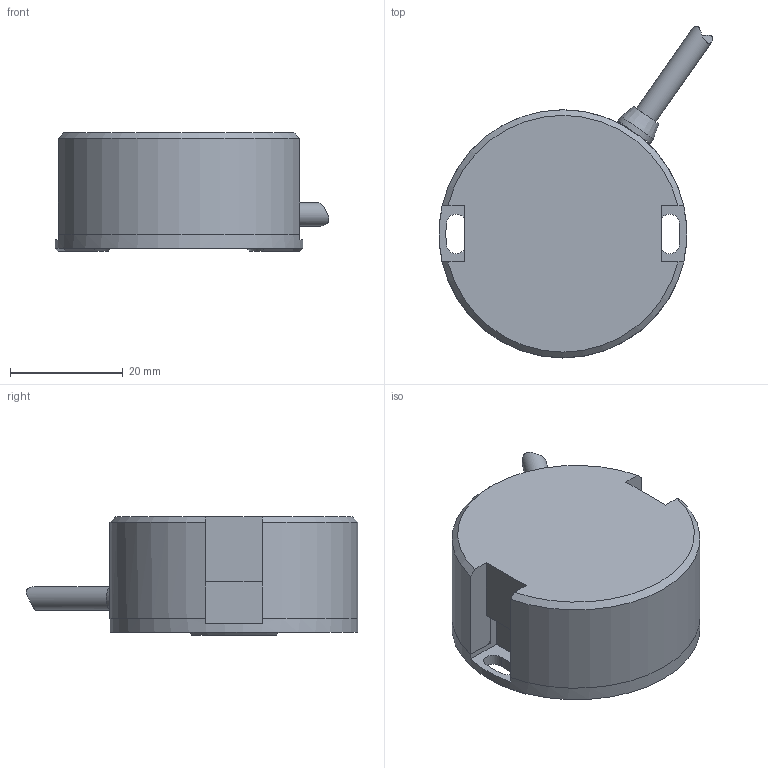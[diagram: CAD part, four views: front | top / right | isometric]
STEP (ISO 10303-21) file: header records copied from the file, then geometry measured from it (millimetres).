
FILE_DESCRIPTION(('STEP AP242'),'1');
FILE_NAME('.stp','2022-07-26T05:57:36',(' '),(' '),'Spatial InterOp 3D',' ',' ');
FILE_SCHEMA(('AP242_MANAGED_MODEL_BASED_3D_ENGINEERING_MIM_LF {1 0 10303 442 1 1 4}'));
Length unit declared in the file: millimetre
Products named in the file (6): L9C03 MGH-30-＊＊＊□; ケース MGH30 モジュール; 029946 4対8芯ケーブル(4.2)1M-MGH; ケーブルモデル1; ゴムプッシュ
Assembly tree (5 placements, depth 3):
  L9C03 MGH-30-＊＊＊□
    L9C03 MGH-30-＊＊＊□
    ケース MGH30 モジュール
    029946 4対8芯ケーブル(4.2)1M-MGH
      ケーブルモデル1
      ゴムプッシュ
Bounding box: 48.52 x 58.88 x 21 mm (x, y, z)
Volume: 27953.3 mm3; surface area: 15736.1 mm2
Topology: 4 solids, 5 shells, 146 faces, 370 edges, 238 vertices
Faces by surface type: plane 92, cylinder 40, cone 12, torus 2
Full cylindrical faces by diameter (mm): 1.6 x2, 2.5 x2, 4.2 x2, 7 x1, 8 x1, 9 x1, 10 x1, 12 x1, 16 x1, 19 x1
Entity records: 5972 total; most frequent: CARTESIAN_POINT 1038, DIRECTION 731, ORIENTED_EDGE 696, EDGE_CURVE 348, AXIS2_PLACEMENT_3D 255, VERTEX_POINT 230, LINE 221, VECTOR 221
